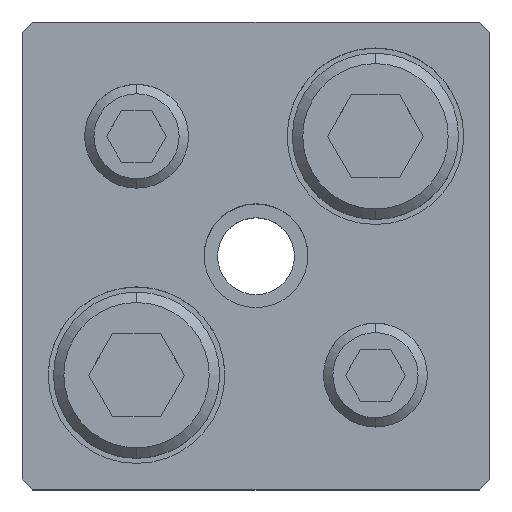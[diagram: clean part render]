
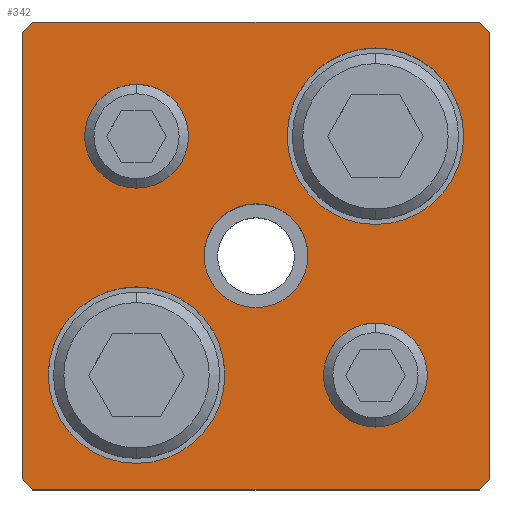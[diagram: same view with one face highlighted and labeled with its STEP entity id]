
A CAD part, top view. The second image highlights one B-rep face of the part: STEP entity #342.
In plain terms, the highlighted planar face has unit normal (0, 0, 1).
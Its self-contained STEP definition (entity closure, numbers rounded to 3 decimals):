
#167=PLANE('',#2883);
#246=FACE_BOUND('',#713,.T.);
#247=FACE_BOUND('',#714,.T.);
#248=FACE_BOUND('',#715,.T.);
#249=FACE_BOUND('',#716,.T.);
#250=FACE_BOUND('',#717,.T.);
#251=FACE_BOUND('',#718,.T.);
#342=ADVANCED_FACE('',(#246,#247,#248,#249,#250,#251),#167,.T.);
#713=EDGE_LOOP('',(#1569,#1570,#1571,#1572,#1573,#1574,#1575,#1576));
#714=EDGE_LOOP('',(#1577,#1578));
#715=EDGE_LOOP('',(#1579,#1580));
#716=EDGE_LOOP('',(#1581,#1582));
#717=EDGE_LOOP('',(#1583,#1584));
#718=EDGE_LOOP('',(#1585,#1586));
#898=LINE('',#4227,#1118);
#899=LINE('',#4230,#1119);
#900=LINE('',#4232,#1120);
#901=LINE('',#4234,#1121);
#902=LINE('',#4236,#1122);
#903=LINE('',#4238,#1123);
#904=LINE('',#4240,#1124);
#905=LINE('',#4242,#1125);
#1118=VECTOR('',#3401,1.);
#1119=VECTOR('',#3402,1.);
#1120=VECTOR('',#3403,1.);
#1121=VECTOR('',#3404,1.);
#1122=VECTOR('',#3405,1.);
#1123=VECTOR('',#3406,1.);
#1124=VECTOR('',#3407,1.);
#1125=VECTOR('',#3408,1.);
#1569=ORIENTED_EDGE('',*,*,#2390,.T.);
#1570=ORIENTED_EDGE('',*,*,#2391,.T.);
#1571=ORIENTED_EDGE('',*,*,#2392,.T.);
#1572=ORIENTED_EDGE('',*,*,#2393,.T.);
#1573=ORIENTED_EDGE('',*,*,#2394,.T.);
#1574=ORIENTED_EDGE('',*,*,#2395,.T.);
#1575=ORIENTED_EDGE('',*,*,#2396,.T.);
#1576=ORIENTED_EDGE('',*,*,#2397,.T.);
#1577=ORIENTED_EDGE('',*,*,#2398,.F.);
#1578=ORIENTED_EDGE('',*,*,#2399,.F.);
#1579=ORIENTED_EDGE('',*,*,#2400,.F.);
#1580=ORIENTED_EDGE('',*,*,#2401,.F.);
#1581=ORIENTED_EDGE('',*,*,#2376,.F.);
#1582=ORIENTED_EDGE('',*,*,#2372,.F.);
#1583=ORIENTED_EDGE('',*,*,#2370,.F.);
#1584=ORIENTED_EDGE('',*,*,#2366,.F.);
#1585=ORIENTED_EDGE('',*,*,#2402,.T.);
#1586=ORIENTED_EDGE('',*,*,#2403,.T.);
#2083=VERTEX_POINT('',#4178);
#2084=VERTEX_POINT('',#4179);
#2087=VERTEX_POINT('',#4191);
#2088=VERTEX_POINT('',#4192);
#2099=VERTEX_POINT('',#4228);
#2100=VERTEX_POINT('',#4229);
#2101=VERTEX_POINT('',#4231);
#2102=VERTEX_POINT('',#4233);
#2103=VERTEX_POINT('',#4235);
#2104=VERTEX_POINT('',#4237);
#2105=VERTEX_POINT('',#4239);
#2106=VERTEX_POINT('',#4241);
#2107=VERTEX_POINT('',#4244);
#2108=VERTEX_POINT('',#4245);
#2109=VERTEX_POINT('',#4248);
#2110=VERTEX_POINT('',#4249);
#2111=VERTEX_POINT('',#4252);
#2112=VERTEX_POINT('',#4253);
#2366=EDGE_CURVE('',#2083,#2084,#2655,.T.);
#2370=EDGE_CURVE('',#2084,#2083,#2657,.T.);
#2372=EDGE_CURVE('',#2087,#2088,#2659,.T.);
#2376=EDGE_CURVE('',#2088,#2087,#2661,.T.);
#2390=EDGE_CURVE('',#2099,#2100,#898,.T.);
#2391=EDGE_CURVE('',#2100,#2101,#899,.T.);
#2392=EDGE_CURVE('',#2101,#2102,#900,.T.);
#2393=EDGE_CURVE('',#2102,#2103,#901,.T.);
#2394=EDGE_CURVE('',#2103,#2104,#902,.T.);
#2395=EDGE_CURVE('',#2104,#2105,#903,.T.);
#2396=EDGE_CURVE('',#2105,#2106,#904,.T.);
#2397=EDGE_CURVE('',#2106,#2099,#905,.T.);
#2398=EDGE_CURVE('',#2107,#2108,#2671,.T.);
#2399=EDGE_CURVE('',#2108,#2107,#2672,.T.);
#2400=EDGE_CURVE('',#2109,#2110,#2673,.T.);
#2401=EDGE_CURVE('',#2110,#2109,#2674,.T.);
#2402=EDGE_CURVE('',#2111,#2112,#2675,.T.);
#2403=EDGE_CURVE('',#2112,#2111,#2676,.T.);
#2655=CIRCLE('',#2851,5.);
#2657=CIRCLE('',#2854,5.);
#2659=CIRCLE('',#2858,5.);
#2661=CIRCLE('',#2861,5.);
#2671=CIRCLE('',#2877,8.5);
#2672=CIRCLE('',#2878,8.5);
#2673=CIRCLE('',#2879,8.5);
#2674=CIRCLE('',#2880,8.5);
#2675=CIRCLE('',#2881,5.);
#2676=CIRCLE('',#2882,5.);
#2851=AXIS2_PLACEMENT_3D('',#4177,#3341,#3342);
#2854=AXIS2_PLACEMENT_3D('',#4186,#3349,#3350);
#2858=AXIS2_PLACEMENT_3D('',#4190,#3357,#3358);
#2861=AXIS2_PLACEMENT_3D('',#4199,#3365,#3366);
#2877=AXIS2_PLACEMENT_3D('',#4243,#3409,#3410);
#2878=AXIS2_PLACEMENT_3D('',#4246,#3411,#3412);
#2879=AXIS2_PLACEMENT_3D('',#4247,#3413,#3414);
#2880=AXIS2_PLACEMENT_3D('',#4250,#3415,#3416);
#2881=AXIS2_PLACEMENT_3D('',#4251,#3417,#3418);
#2882=AXIS2_PLACEMENT_3D('',#4254,#3419,#3420);
#2883=AXIS2_PLACEMENT_3D('',#4255,#3421,#3422);
#3341=DIRECTION('',(0.,0.,1.));
#3342=DIRECTION('',(-1.,0.,0.));
#3349=DIRECTION('',(0.,0.,1.));
#3350=DIRECTION('',(1.,0.,0.));
#3357=DIRECTION('',(0.,0.,1.));
#3358=DIRECTION('',(-1.,0.,0.));
#3365=DIRECTION('',(0.,0.,1.));
#3366=DIRECTION('',(1.,0.,0.));
#3401=DIRECTION('',(0.707,0.707,0.));
#3402=DIRECTION('',(0.,1.,0.));
#3403=DIRECTION('',(-0.707,0.707,0.));
#3404=DIRECTION('',(-1.,0.,0.));
#3405=DIRECTION('',(-0.707,-0.707,0.));
#3406=DIRECTION('',(0.,-1.,0.));
#3407=DIRECTION('',(0.707,-0.707,0.));
#3408=DIRECTION('',(1.,0.,0.));
#3409=DIRECTION('',(0.,0.,1.));
#3410=DIRECTION('',(1.,0.,0.));
#3411=DIRECTION('',(0.,0.,1.));
#3412=DIRECTION('',(-1.,0.,0.));
#3413=DIRECTION('',(0.,0.,1.));
#3414=DIRECTION('',(1.,0.,0.));
#3415=DIRECTION('',(0.,0.,1.));
#3416=DIRECTION('',(-1.,0.,0.));
#3417=DIRECTION('',(0.,0.,-1.));
#3418=DIRECTION('',(-1.,0.,0.));
#3419=DIRECTION('',(0.,0.,-1.));
#3420=DIRECTION('',(1.,0.,0.));
#3421=DIRECTION('',(0.,0.,1.));
#3422=DIRECTION('',(-1.,0.,0.));
#4177=CARTESIAN_POINT('',(11.5,-11.5,35.));
#4178=CARTESIAN_POINT('',(11.5,-16.5,35.));
#4179=CARTESIAN_POINT('',(11.5,-6.5,35.));
#4186=CARTESIAN_POINT('',(11.5,-11.5,35.));
#4190=CARTESIAN_POINT('',(-11.5,11.5,35.));
#4191=CARTESIAN_POINT('',(-11.5,6.5,35.));
#4192=CARTESIAN_POINT('',(-11.5,16.5,35.));
#4199=CARTESIAN_POINT('',(-11.5,11.5,35.));
#4227=CARTESIAN_POINT('',(21.5,-22.5,35.));
#4228=CARTESIAN_POINT('',(21.5,-22.5,35.));
#4229=CARTESIAN_POINT('',(22.5,-21.5,35.));
#4230=CARTESIAN_POINT('',(22.5,21.5,35.));
#4231=CARTESIAN_POINT('',(22.5,21.5,35.));
#4232=CARTESIAN_POINT('',(22.5,21.5,35.));
#4233=CARTESIAN_POINT('',(21.5,22.5,35.));
#4234=CARTESIAN_POINT('',(-21.5,22.5,35.));
#4235=CARTESIAN_POINT('',(-21.5,22.5,35.));
#4236=CARTESIAN_POINT('',(-21.5,22.5,35.));
#4237=CARTESIAN_POINT('',(-22.5,21.5,35.));
#4238=CARTESIAN_POINT('',(-22.5,21.5,35.));
#4239=CARTESIAN_POINT('',(-22.5,-21.5,35.));
#4240=CARTESIAN_POINT('',(-22.5,-21.5,35.));
#4241=CARTESIAN_POINT('',(-21.5,-22.5,35.));
#4242=CARTESIAN_POINT('',(-21.5,-22.5,35.));
#4243=CARTESIAN_POINT('',(11.5,11.5,35.));
#4244=CARTESIAN_POINT('',(11.5,20.,35.));
#4245=CARTESIAN_POINT('',(11.5,3.,35.));
#4246=CARTESIAN_POINT('',(11.5,11.5,35.));
#4247=CARTESIAN_POINT('',(-11.5,-11.5,35.));
#4248=CARTESIAN_POINT('',(-11.5,-3.,35.));
#4249=CARTESIAN_POINT('',(-11.5,-20.,35.));
#4250=CARTESIAN_POINT('',(-11.5,-11.5,35.));
#4251=CARTESIAN_POINT('',(0.,0.,35.));
#4252=CARTESIAN_POINT('',(0.,5.,35.));
#4253=CARTESIAN_POINT('',(0.,-5.,35.));
#4254=CARTESIAN_POINT('',(0.,0.,35.));
#4255=CARTESIAN_POINT('',(21.5,-22.5,35.));
